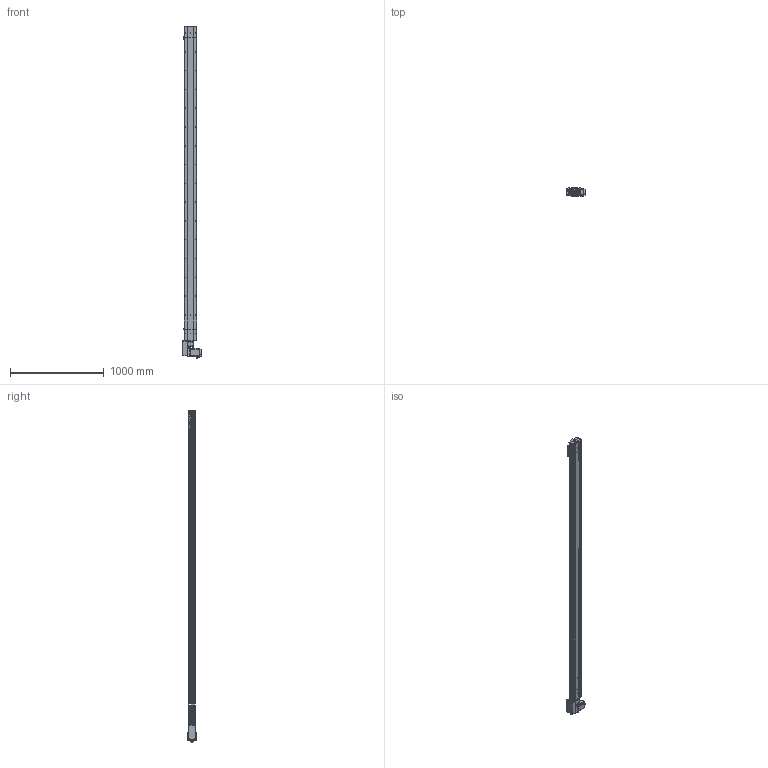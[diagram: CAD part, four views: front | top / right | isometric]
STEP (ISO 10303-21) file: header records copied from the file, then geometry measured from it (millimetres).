
FILE_DESCRIPTION (( 'STEP AP214' ), '1' );
FILE_NAME ('D14 TBH RH S3100.STEP', '2010-06-29T14:47:56', ( 'Conseil Régional Haute-Normandie' ), ( 'Conseil Régional Haute-Normandie' ), 'SwSTEP 2.0', 'SolidWorks 2010', '' );
FILE_SCHEMA (( 'AUTOMOTIVE_DESIGN' ));
Length unit declared in the file: millimetre
Products named in the file (39): corp head D14_Default; corpl tail D14_Default; corps 90BLDC100A-640; plaque de  bout head D14 RH_Default; D14 TB H RH_Default; tete d''axe haut D14; Arbre+rail tail D14; plaque de  bout tail D14_Default; vis M5 L16_Default; vis M5 L8 90°_Default; couvercle D14_Default; Couroie_Default; poulie tail_Default; Moteur motionking 90BLDC100A-640; codeur 90BLDC100-640; couroie 2_Default; Conecteur2_Default; couvercle D14 head_Default; Arbre+rail head D14; poulie head_Default; avant 90BLDC100A-640; Vis M5 L16-2_Default; Conecteur_Default; Cache_Default; Cache arbre_Default; vis M5 L5_Default; Plaque racord D14_Default; renvoi RH_Default; Chariot D14; guide D14; Cvis M5 L70_Default; vis M5 L12_Default; chariot D14B_Default; corpl 3100_Default; D14 couroie L3100_Default; couvercle D14 course L3100_Default; Rail + couroie D14 Course 3100 ; Tail D14B_Default; D14 TBH RH S3100
Assembly tree (68 placements, depth 4):
  D14 TBH RH S3100
    D14 TB H RH_Default
      vis M5 L12_Default  x12
      Cvis M5 L70_Default  x4
      Cache_Default  x2
      Cache arbre_Default
      Plaque racord D14_Default
      Vis M5 L16-2_Default  x4
      couroie 2_Default
      poulie head_Default
      Moteur motionking 90BLDC100A-640
        corps 90BLDC100A-640
        avant 90BLDC100A-640
        Conecteur_Default
        Conecteur2_Default
        codeur 90BLDC100-640
      couvercle D14 head_Default
      vis M5 L5_Default  x2
      renvoi RH_Default
      corp head D14_Default
      Arbre+rail head D14
      plaque de  bout head D14 RH_Default
    chariot D14B_Default
      vis M5 L12_Default  x4
      guide D14  x2
      Chariot D14
    D14 couroie L3100_Default
      Rail + couroie D14 Course 3100 
      corpl 3100_Default
      couvercle D14 course L3100_Default
    Tail D14B_Default
      Couroie_Default
      vis M5 L12_Default  x4
      Arbre+rail tail D14
      tete d''axe haut D14
      vis M5 L16_Default  x2
      vis M5 L8 90°_Default  x2
      couvercle D14_Default
      corpl tail D14_Default
      poulie tail_Default
      plaque de  bout tail D14_Default
Bounding box: 207.2 x 85.9 x 3532.45 mm (x, y, z)
Volume: 12465368.8 mm3; surface area: 4583334 mm2
Topology: 92 solids, 92 shells, 2773 faces, 6755 edges, 4362 vertices
Faces by surface type: plane 1625, cylinder 835, bspline 136, torus 89, cone 84, sphere 4
Entity records: 83384 total; most frequent: CARTESIAN_POINT 24229, ORIENTED_EDGE 10370, DIRECTION 10324, EDGE_CURVE 5185, AXIS2_PLACEMENT_3D 3471, VERTEX_POINT 3412, VECTOR 3382, LINE 3382
